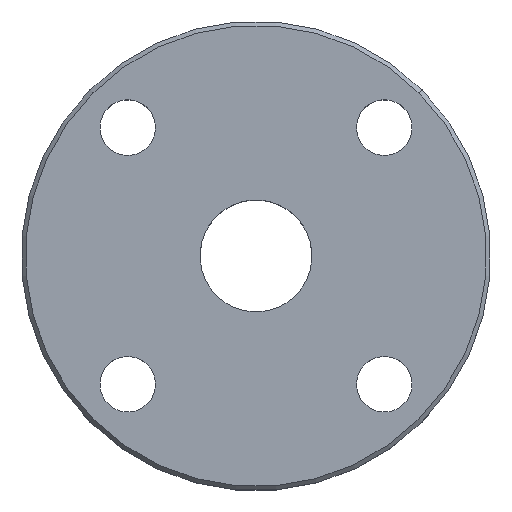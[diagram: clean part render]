
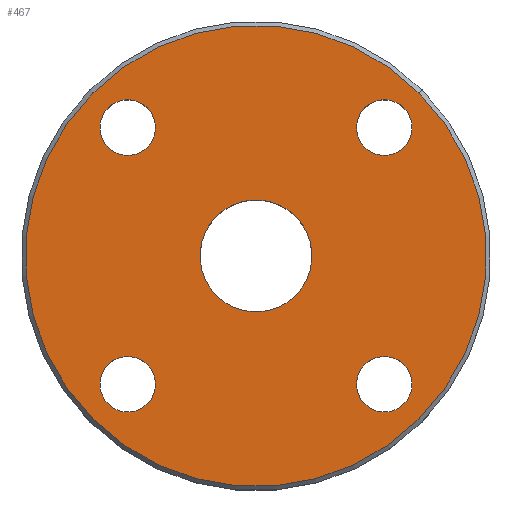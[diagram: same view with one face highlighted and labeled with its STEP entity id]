
A CAD part, top view. The second image highlights one B-rep face of the part: STEP entity #467.
In plain terms, the highlighted planar face has unit normal (0, 0, 1).
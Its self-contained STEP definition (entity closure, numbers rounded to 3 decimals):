
#5 = CIRCLE ( 'NONE', #294, 6.5 ) ;
#23 = AXIS2_PLACEMENT_3D ( 'NONE', #926, #846, #860 ) ;
#29 = VERTEX_POINT ( 'NONE', #76 ) ;
#43 = DIRECTION ( 'NONE',  ( -0.707, -0.707, 0. ) ) ;
#59 = DIRECTION ( 'NONE',  ( 0.707, 0.707, 0. ) ) ;
#62 = CARTESIAN_POINT ( 'NONE',  ( 0., 0., 233.5 ) ) ;
#64 = DIRECTION ( 'NONE',  ( 0., 0., -1. ) ) ;
#72 = CIRCLE ( 'NONE', #657, 6.5 ) ;
#76 = CARTESIAN_POINT ( 'NONE',  ( 25.456, 25.456, 233.5 ) ) ;
#82 = ORIENTED_EDGE ( 'NONE', *, *, #1031, .T. ) ;
#83 = CARTESIAN_POINT ( 'NONE',  ( 38.184, 38.184, 233.5 ) ) ;
#87 = AXIS2_PLACEMENT_3D ( 'NONE', #62, #990, #43 ) ;
#99 = VERTEX_POINT ( 'NONE', #551 ) ;
#122 = ORIENTED_EDGE ( 'NONE', *, *, #456, .T. ) ;
#123 = CARTESIAN_POINT ( 'NONE',  ( 0., 0., 233.5 ) ) ;
#131 = VERTEX_POINT ( 'NONE', #392 ) ;
#135 = VERTEX_POINT ( 'NONE', #250 ) ;
#147 = DIRECTION ( 'NONE',  ( -0.707, -0.707, 0. ) ) ;
#150 = CIRCLE ( 'NONE', #571, 54. ) ;
#164 = EDGE_LOOP ( 'NONE', ( #876, #723 ) ) ;
#165 = CARTESIAN_POINT ( 'NONE',  ( -25.456, -25.456, 233.5 ) ) ;
#173 = CIRCLE ( 'NONE', #736, 6.5 ) ;
#193 = FACE_BOUND ( 'NONE', #164, .T. ) ;
#194 = CIRCLE ( 'NONE', #835, 54. ) ;
#196 = ORIENTED_EDGE ( 'NONE', *, *, #633, .T. ) ;
#199 = FACE_BOUND ( 'NONE', #939, .T. ) ;
#216 = CARTESIAN_POINT ( 'NONE',  ( 30.052, -30.052, 233.5 ) ) ;
#224 = CARTESIAN_POINT ( 'NONE',  ( 0., 0., 233.5 ) ) ;
#226 = CIRCLE ( 'NONE', #87, 13.105 ) ;
#230 = EDGE_CURVE ( 'NONE', #817, #131, #173, .T. ) ;
#239 = EDGE_CURVE ( 'NONE', #338, #379, #226, .T. ) ;
#250 = CARTESIAN_POINT ( 'NONE',  ( 34.648, 34.648, 233.5 ) ) ;
#255 = CARTESIAN_POINT ( 'NONE',  ( 9.267, 9.267, 233.5 ) ) ;
#260 = DIRECTION ( 'NONE',  ( 0., 0., -1. ) ) ;
#284 = FACE_BOUND ( 'NONE', #1008, .T. ) ;
#285 = DIRECTION ( 'NONE',  ( 0.707, 0.707, 0. ) ) ;
#293 = CARTESIAN_POINT ( 'NONE',  ( -34.648, 34.648, 233.5 ) ) ;
#294 = AXIS2_PLACEMENT_3D ( 'NONE', #537, #462, #147 ) ;
#295 = AXIS2_PLACEMENT_3D ( 'NONE', #385, #842, #708 ) ;
#297 = AXIS2_PLACEMENT_3D ( 'NONE', #881, #959, #827 ) ;
#307 = EDGE_CURVE ( 'NONE', #379, #338, #594, .T. ) ;
#312 = ORIENTED_EDGE ( 'NONE', *, *, #882, .T. ) ;
#313 = DIRECTION ( 'NONE',  ( 0., 0., -1. ) ) ;
#329 = DIRECTION ( 'NONE',  ( -0.707, -0.707, 0. ) ) ;
#338 = VERTEX_POINT ( 'NONE', #502 ) ;
#345 = AXIS2_PLACEMENT_3D ( 'NONE', #412, #422, #329 ) ;
#347 = CIRCLE ( 'NONE', #23, 6.5 ) ;
#351 = DIRECTION ( 'NONE',  ( -0.707, 0.707, 0. ) ) ;
#356 = FACE_BOUND ( 'NONE', #791, .T. ) ;
#358 = ORIENTED_EDGE ( 'NONE', *, *, #852, .F. ) ;
#365 = EDGE_LOOP ( 'NONE', ( #1028, #358 ) ) ;
#379 = VERTEX_POINT ( 'NONE', #255 ) ;
#385 = CARTESIAN_POINT ( 'NONE',  ( 0., 0., 233.5 ) ) ;
#389 = PLANE ( 'NONE',  #295 ) ;
#392 = CARTESIAN_POINT ( 'NONE',  ( -34.648, -34.648, 233.5 ) ) ;
#400 = DIRECTION ( 'NONE',  ( 0.707, -0.707, 0. ) ) ;
#412 = CARTESIAN_POINT ( 'NONE',  ( 0., 0., 233.5 ) ) ;
#422 = DIRECTION ( 'NONE',  ( 0., 0., -1. ) ) ;
#429 = CIRCLE ( 'NONE', #922, 6.5 ) ;
#435 = VERTEX_POINT ( 'NONE', #293 ) ;
#454 = ORIENTED_EDGE ( 'NONE', *, *, #844, .T. ) ;
#456 = EDGE_CURVE ( 'NONE', #526, #826, #903, .T. ) ;
#462 = DIRECTION ( 'NONE',  ( 0., 0., -1. ) ) ;
#467 = ADVANCED_FACE ( 'NONE', ( #193, #595, #356, #284, #199, #775 ), #389, .T. ) ;
#471 = AXIS2_PLACEMENT_3D ( 'NONE', #480, #260, #400 ) ;
#480 = CARTESIAN_POINT ( 'NONE',  ( -30.052, 30.052, 233.5 ) ) ;
#492 = CIRCLE ( 'NONE', #297, 6.5 ) ;
#501 = DIRECTION ( 'NONE',  ( -0.707, -0.707, 0. ) ) ;
#502 = CARTESIAN_POINT ( 'NONE',  ( -9.267, -9.267, 233.5 ) ) ;
#526 = VERTEX_POINT ( 'NONE', #548 ) ;
#537 = CARTESIAN_POINT ( 'NONE',  ( 30.052, 30.052, 233.5 ) ) ;
#547 = CARTESIAN_POINT ( 'NONE',  ( -25.456, 25.456, 233.5 ) ) ;
#548 = CARTESIAN_POINT ( 'NONE',  ( 34.648, -34.648, 233.5 ) ) ;
#551 = CARTESIAN_POINT ( 'NONE',  ( -38.184, -38.184, 233.5 ) ) ;
#554 = CIRCLE ( 'NONE', #471, 6.5 ) ;
#571 = AXIS2_PLACEMENT_3D ( 'NONE', #123, #834, #987 ) ;
#590 = DIRECTION ( 'NONE',  ( 0., 0., -1. ) ) ;
#594 = CIRCLE ( 'NONE', #345, 13.105 ) ;
#595 = FACE_BOUND ( 'NONE', #1026, .T. ) ;
#614 = DIRECTION ( 'NONE',  ( 0., 0., -1. ) ) ;
#628 = EDGE_CURVE ( 'NONE', #761, #99, #194, .T. ) ;
#629 = ORIENTED_EDGE ( 'NONE', *, *, #230, .T. ) ;
#633 = EDGE_CURVE ( 'NONE', #135, #29, #5, .T. ) ;
#657 = AXIS2_PLACEMENT_3D ( 'NONE', #767, #313, #774 ) ;
#677 = DIRECTION ( 'NONE',  ( 0., 0., -1. ) ) ;
#708 = DIRECTION ( 'NONE',  ( 0.707, -0.707, 0. ) ) ;
#723 = ORIENTED_EDGE ( 'NONE', *, *, #307, .T. ) ;
#724 = CARTESIAN_POINT ( 'NONE',  ( 25.456, -25.456, 233.5 ) ) ;
#736 = AXIS2_PLACEMENT_3D ( 'NONE', #995, #614, #285 ) ;
#761 = VERTEX_POINT ( 'NONE', #83 ) ;
#767 = CARTESIAN_POINT ( 'NONE',  ( -30.052, -30.052, 233.5 ) ) ;
#774 = DIRECTION ( 'NONE',  ( 0.707, 0.707, 0. ) ) ;
#775 = FACE_OUTER_BOUND ( 'NONE', #365, .T. ) ;
#777 = EDGE_CURVE ( 'NONE', #435, #996, #554, .T. ) ;
#791 = EDGE_LOOP ( 'NONE', ( #454, #1013 ) ) ;
#803 = ORIENTED_EDGE ( 'NONE', *, *, #993, .T. ) ;
#817 = VERTEX_POINT ( 'NONE', #165 ) ;
#826 = VERTEX_POINT ( 'NONE', #724 ) ;
#827 = DIRECTION ( 'NONE',  ( 0.707, -0.707, 0. ) ) ;
#834 = DIRECTION ( 'NONE',  ( 0., 0., -1. ) ) ;
#835 = AXIS2_PLACEMENT_3D ( 'NONE', #224, #64, #59 ) ;
#842 = DIRECTION ( 'NONE',  ( 0., 0., 1. ) ) ;
#844 = EDGE_CURVE ( 'NONE', #996, #435, #492, .T. ) ;
#846 = DIRECTION ( 'NONE',  ( 0., 0., -1. ) ) ;
#852 = EDGE_CURVE ( 'NONE', #99, #761, #150, .T. ) ;
#860 = DIRECTION ( 'NONE',  ( -0.707, 0.707, 0. ) ) ;
#876 = ORIENTED_EDGE ( 'NONE', *, *, #239, .T. ) ;
#881 = CARTESIAN_POINT ( 'NONE',  ( -30.052, 30.052, 233.5 ) ) ;
#882 = EDGE_CURVE ( 'NONE', #29, #135, #429, .T. ) ;
#900 = CARTESIAN_POINT ( 'NONE',  ( 30.052, 30.052, 233.5 ) ) ;
#903 = CIRCLE ( 'NONE', #967, 6.5 ) ;
#922 = AXIS2_PLACEMENT_3D ( 'NONE', #900, #677, #501 ) ;
#926 = CARTESIAN_POINT ( 'NONE',  ( 30.052, -30.052, 233.5 ) ) ;
#939 = EDGE_LOOP ( 'NONE', ( #629, #803 ) ) ;
#959 = DIRECTION ( 'NONE',  ( 0., 0., -1. ) ) ;
#967 = AXIS2_PLACEMENT_3D ( 'NONE', #216, #590, #351 ) ;
#987 = DIRECTION ( 'NONE',  ( 0.707, 0.707, 0. ) ) ;
#990 = DIRECTION ( 'NONE',  ( 0., 0., -1. ) ) ;
#993 = EDGE_CURVE ( 'NONE', #131, #817, #72, .T. ) ;
#995 = CARTESIAN_POINT ( 'NONE',  ( -30.052, -30.052, 233.5 ) ) ;
#996 = VERTEX_POINT ( 'NONE', #547 ) ;
#1008 = EDGE_LOOP ( 'NONE', ( #82, #122 ) ) ;
#1013 = ORIENTED_EDGE ( 'NONE', *, *, #777, .T. ) ;
#1026 = EDGE_LOOP ( 'NONE', ( #312, #196 ) ) ;
#1028 = ORIENTED_EDGE ( 'NONE', *, *, #628, .F. ) ;
#1031 = EDGE_CURVE ( 'NONE', #826, #526, #347, .T. ) ;
